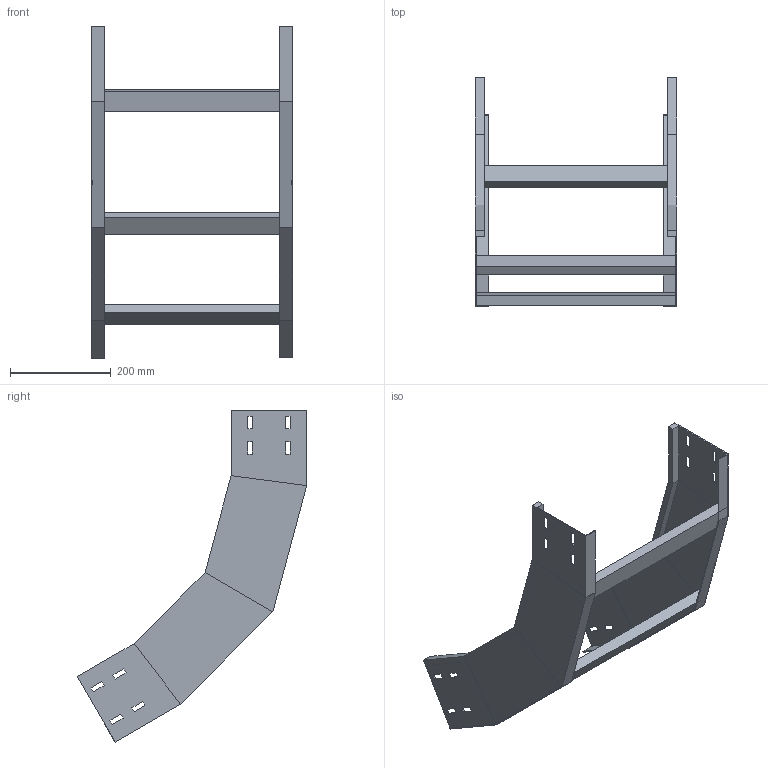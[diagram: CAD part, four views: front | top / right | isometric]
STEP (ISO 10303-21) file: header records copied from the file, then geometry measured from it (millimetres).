
FILE_DESCRIPTION (( 'STEP AP214' ), '1' );
FILE_NAME ('40J5F400.step', '2025-02-21T16:26:50', ( '' ), ( '' ), 'SwSTEP 2.0', 'SolidWorks 2023', '' );
FILE_SCHEMA (( 'AUTOMOTIVE_DESIGN' ));
Length unit declared in the file: millimetre
Products named in the file (3): 40J5F400; TRAVERSINO_400; LONGH.SALITA_60°_H150_R500
Assembly tree (5 placements, depth 2):
  40J5F400
    LONGH.SALITA_60°_H150_R500  x2
    TRAVERSINO_400  x3
Bounding box: 400 x 455.08 x 658.32 mm (x, y, z)
Volume: 1735120.4 mm3; surface area: 718899.3 mm2
Topology: 5 solids, 5 shells, 150 faces, 372 edges, 232 vertices
Faces by surface type: plane 150
Entity records: 2216 total; most frequent: CARTESIAN_POINT 372, ORIENTED_EDGE 360, DIRECTION 340, VECTOR 180, EDGE_CURVE 180, LINE 180, VERTEX_POINT 112, EDGE_LOOP 88
